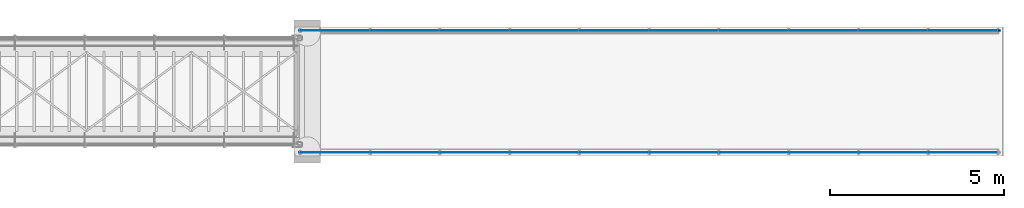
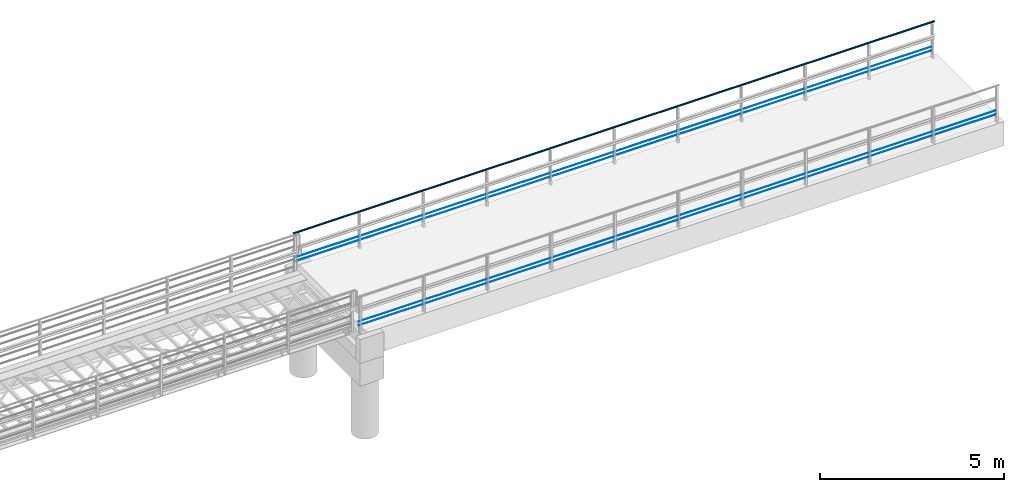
# One storey, part 16 of 31: 5 beams.
"""IFC2X3 building model written with IfcOpenShell, lengths in millimetres."""

import ifcopenshell
import ifcopenshell.guid

model = None  # the IFC model being written
_history = None  # IfcOwnerHistory: only IFC2X3 demands one
_inside = {}  # id of a spatial element -> (the spatial element, [elements in it])
_under = {}  # id of a project, library or spatial element -> (it, [spatial elements below it])
_declared = {}  # id of a project -> (the project, [libraries it declares])
_typed = {}  # id of a type object -> (the type object, [elements of that type])
_made_of = {}  # id of a material, layer set ... -> (it, [elements and type objects made of it])


def new_model(schema):
    """Start an empty IFC model of exactly this schema.

    Asked for "IFC4X3", IfcOpenShell would pick the latest addendum, in which some entities
    have other attributes; the version numbers below select the first issue.
    IFC2X3 requires an IfcOwnerHistory on every rooted entity: one is made here for all.
    """
    global model, _history
    if schema == "IFC4X3":
        model = ifcopenshell.file(schema_version=(4, 3, 0, 0))
    else:
        model = ifcopenshell.file(schema=schema)
    _inside.clear()
    _under.clear()
    _declared.clear()
    _typed.clear()
    _made_of.clear()
    _history = None
    if model.schema == "IFC2X3":
        org = make("IfcOrganization", Name="unknown")
        user = make(
            "IfcPersonAndOrganization",
            ThePerson=make("IfcPerson", FamilyName="unknown"),
            TheOrganization=org,
        )
        app = make(
            "IfcApplication",
            ApplicationDeveloper=org,
            Version="unknown",
            ApplicationFullName="unknown",
            ApplicationIdentifier="unknown",
        )
        _history = make(
            "IfcOwnerHistory",
            OwningUser=user,
            OwningApplication=app,
            ChangeAction="ADDED",
            CreationDate=0,
        )
    return model


def make(cls, **values):
    """One entity of the class cls with the attributes given. An attribute that is None is left unset."""
    return model.create_entity(
        cls, **{name: value for name, value in values.items() if value is not None}
    )


def rooted(cls, **values):
    """An entity with a GlobalId (a new one), such as an element, a storey or a relation."""
    return make(cls, GlobalId=ifcopenshell.guid.new(), OwnerHistory=_history, **values)


def si_unit(unit_type, name, prefix=None):
    """IfcSIUnit, for example si_unit("LENGTHUNIT", "METRE", prefix="MILLI")."""
    return make("IfcSIUnit", UnitType=unit_type, Prefix=prefix, Name=name)


def assignment(units):
    """IfcUnitAssignment: the units of a project."""
    return None if units is None else make("IfcUnitAssignment", Units=units)


def point(xyz):
    """IfcCartesianPoint."""
    return None if xyz is None else make("IfcCartesianPoint", Coordinates=xyz)


def direction(xyz):
    """IfcDirection."""
    return None if xyz is None else make("IfcDirection", DirectionRatios=xyz)


def frame(location, z_axis=None, x_axis=None):
    """IfcAxis2Placement3D, a coordinate frame: its origin and axes. An axis left out is left unset."""
    return make(
        "IfcAxis2Placement3D",
        Location=point(location),
        Axis=direction(z_axis),
        RefDirection=direction(x_axis),
    )


def origin_with_axes():
    """The frame at (0, 0, 0) with the z axis (0, 0, 1) and the x axis (1, 0, 0) written out."""
    return frame((0.0, 0.0, 0.0), z_axis=(0.0, 0.0, 1.0), x_axis=(1.0, 0.0, 0.0))


def place(relative_to, where):
    """IfcLocalPlacement: puts the frame where relative to a parent placement (None: the world)."""
    return make(
        "IfcLocalPlacement", PlacementRelTo=relative_to, RelativePlacement=where
    )


def context(
    kind, dimensions, precision=None, world=None, true_north=None, identifier=None
):
    """IfcGeometricRepresentationContext, for example the 3D "Model" context."""
    return make(
        "IfcGeometricRepresentationContext",
        ContextIdentifier=identifier,
        ContextType=kind,
        CoordinateSpaceDimension=dimensions,
        Precision=precision,
        WorldCoordinateSystem=world,
        TrueNorth=true_north,
    )


def subcontext(parent, identifier, kind, view, scale=None):
    """IfcGeometricRepresentationSubContext, for example "Body" below "Model"."""
    return make(
        "IfcGeometricRepresentationSubContext",
        ContextIdentifier=identifier,
        ContextType=kind,
        ParentContext=parent,
        TargetScale=scale,
        TargetView=view,
    )


def project(units=None, contexts=None):
    """IfcProject with its units and contexts."""
    return rooted(
        "IfcProject",
        Name="project",
        RepresentationContexts=contexts,
        UnitsInContext=assignment(units),
    )


def spatial(cls, under=None, at=None, **own):
    """A site, building, storey or space (cls), placed at a placement, below another one or the project."""
    s = rooted(cls, ObjectPlacement=at, **own)
    if under is not None:
        _under.setdefault(under.id(), (under, []))[1].append(s)
    return s


def faces_of(points, faces, orient=None, outer=None):
    """IfcFace entities. A face is a list of loops; a loop is a list of indices into points, from 0.

    orient and outer hold one flag for each loop. By default every Orientation is true, the
    first loop of a face is its IfcFaceOuterBound and the others are IfcFaceBound.
    """
    made = []
    for i, loops in enumerate(faces):
        bounds = []
        for j, loop in enumerate(loops):
            is_outer = j == 0 if outer is None else outer[i][j]
            bounds.append(
                make(
                    "IfcFaceOuterBound" if is_outer else "IfcFaceBound",
                    Bound=make("IfcPolyLoop", Polygon=[points[k] for k in loop]),
                    Orientation=True if orient is None else orient[i][j],
                )
            )
        made.append(make("IfcFace", Bounds=bounds))
    return made


def faceted_brep(points, faces, orient=None, outer=None, voids=None):
    """IfcFacetedBrep: a solid bounded by flat faces; with voids (closed shells), ...WithVoids."""
    shared = [point(p) for p in points]
    hull = make("IfcClosedShell", CfsFaces=faces_of(shared, faces, orient, outer))
    if voids is None:
        return make("IfcFacetedBrep", Outer=hull)
    return make(
        "IfcFacetedBrepWithVoids",
        Outer=hull,
        Voids=[
            make(cls, CfsFaces=faces_of(shared, fs, o, b)) for cls, fs, o, b in voids
        ],
    )


def shape(context_of_items, identifier, shape_type, items):
    """IfcShapeRepresentation: the items that make up one representation, for example the "Body"."""
    return make(
        "IfcShapeRepresentation",
        ContextOfItems=context_of_items,
        RepresentationIdentifier=identifier,
        RepresentationType=shape_type,
        Items=items,
    )


def material(Name=None, Category=None):
    """IfcMaterial."""
    return make("IfcMaterial", Name=Name, Category=Category)


def made_of(thing, what):
    """Note that an element or type object is made of a material, layer set ...; save() writes the relation."""
    if what is not None:
        _made_of.setdefault(what.id(), (what, []))[1].append(thing)
    return thing


def type_object(cls, material=None, **own):
    """A type object (cls), such as IfcWallType, which elements share."""
    return made_of(rooted(cls, **own), material)


def element(
    cls,
    number,
    at=None,
    inside=None,
    cuts=None,
    type_object=None,
    material=None,
    context=None,
    identifier="Body",
    shape_type=None,
    held_by="IfcProductDefinitionShape",
    body=None,
    shapes=None,
    **own,
):
    """One element of the class cls, such as IfcWall. Its Tag is "e" and its number.

    at: its placement. inside: the storey or other place that contains it. cuts: it is an
    opening in that element (IfcRelVoidsElement). A single representation is given by context,
    identifier, shape_type and body (its items); several are given by shapes. held_by: the class
    of the entity that holds the representations. save() writes the other relations.
    """
    e = rooted(cls, Tag="e%d" % number, ObjectPlacement=at, **own)
    if body is not None:
        shapes = [shape(context, identifier, shape_type, body)]
    if shapes is not None:
        e.Representation = make(held_by, Representations=shapes)
    if inside is not None:
        _inside.setdefault(inside.id(), (inside, []))[1].append(e)
    if cuts is not None:
        rooted(
            "IfcRelVoidsElement", RelatingBuildingElement=cuts, RelatedOpeningElement=e
        )
    if type_object is not None:
        _typed.setdefault(type_object.id(), (type_object, []))[1].append(e)
    return made_of(e, material)


def aggregate(whole, parts):
    """IfcRelAggregates: a whole, such as a stair, and the parts it consists of."""
    return rooted("IfcRelAggregates", RelatingObject=whole, RelatedObjects=parts)


def save(model, path):
    """Write the relations noted so far, then the file.

    IfcRelAggregates (storeys below a building ...), IfcRelContainedInSpatialStructure (elements
    in a storey), IfcRelDefinesByType, IfcRelAssociatesMaterial and IfcRelDeclares: one each for
    every whole, place, type object, material and project.
    """
    for whole, parts in _under.values():
        aggregate(whole, parts)
    for where, things in _inside.values():
        rooted(
            "IfcRelContainedInSpatialStructure",
            RelatedElements=things,
            RelatingStructure=where,
        )
    for kind, things in _typed.values():
        rooted("IfcRelDefinesByType", RelatedObjects=things, RelatingType=kind)
    for what, things in _made_of.values():
        rooted("IfcRelAssociatesMaterial", RelatedObjects=things, RelatingMaterial=what)
    for by, libraries in _declared.values():
        rooted("IfcRelDeclares", RelatingContext=by, RelatedDefinitions=libraries)
    model.write(path)


model = new_model("IFC2X3")

# Units and contexts
model_context = context("Model", 3, precision=1e-05, world=origin_with_axes())
body_context = subcontext(model_context, "Body", "Model", "MODEL_VIEW")
ifc_project = project(units=[si_unit("LENGTHUNIT", "METRE", prefix="MILLI"), si_unit("AREAUNIT", "SQUARE_METRE"), si_unit("VOLUMEUNIT", "CUBIC_METRE"), si_unit("MASSUNIT", "GRAM", prefix="KILO"), si_unit("TIMEUNIT", "SECOND"), si_unit("PLANEANGLEUNIT", "RADIAN"), si_unit("SOLIDANGLEUNIT", "STERADIAN"), si_unit("THERMODYNAMICTEMPERATUREUNIT", "DEGREE_CELSIUS"), si_unit("LUMINOUSINTENSITYUNIT", "LUMEN")], contexts=[model_context])

# Site, building, storey
site_placement = place(None, origin_with_axes())
site = spatial("IfcSite", under=ifc_project, at=site_placement, Name="Undefined", CompositionType="ELEMENT")
building_placement = place(site_placement, origin_with_axes())
building = spatial("IfcBuilding", under=site, at=building_placement, Name="Undefined", CompositionType="ELEMENT")
storey_placement = place(building_placement, origin_with_axes())
storey = spatial("IfcBuildingStorey", under=building, at=storey_placement, Name="Undefined", CompositionType="ELEMENT", Elevation=0.0)

# Beams
ifc_material = material(Name="STEEL/S355J2+N")
beam_type_1 = type_object("IfcBeamType", Name="CFCHS60.3*3.2", PredefinedType="NOTDEFINED")
beam_placement = place(storey_placement, frame((39650.0, 2900.0, 1069.85), z_axis=(0.0, 1.0, 0.0), x_axis=(-1.0, 0.0, 0.0)))
element("IfcBeam", 1, at=beam_placement, inside=storey, type_object=beam_type_1, material=ifc_material, Name="BB-REKKVERK", context=body_context, shape_type="Brep", body=[
    faceted_brep([(0.0, -26.95, 0.0), (0.0, -24.898553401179, 10.3133185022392), (20150.0, -24.8985534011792, 10.3133185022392), (20150.0, -26.95, 0.0), (0.0, -19.0565277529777, 19.0565277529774), (20150.0, -19.0565277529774, 19.0565277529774), (0.0, -10.3133185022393, 24.8985534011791), (20150.0, -10.3133185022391, 24.8985534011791), (0.0, 0.0, 26.95), (20150.0, 0.0, 26.95), (0.0, 10.3133185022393, 24.8985534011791), (20150.0, 10.3133185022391, 24.8985534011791), (0.0, 19.0565277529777, 19.0565277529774), (20150.0, 19.0565277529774, 19.0565277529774), (0.0, 24.898553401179, 10.3133185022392), (20150.0, 24.8985534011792, 10.3133185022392), (0.0, 26.95, 0.0), (20150.0, 26.95, 0.0), (0.0, 24.898553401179, -10.3133185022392), (20150.0, 24.8985534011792, -10.3133185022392), (0.0, 19.0565277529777, -19.0565277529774), (20150.0, 19.0565277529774, -19.0565277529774), (0.0, 10.3133185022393, -24.8985534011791), (20150.0, 10.3133185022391, -24.8985534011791), (0.0, 0.0, -26.95), (20150.0, 0.0, -26.95), (0.0, -10.3133185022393, -24.8985534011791), (20150.0, -10.3133185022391, -24.8985534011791), (0.0, -19.0565277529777, -19.0565277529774), (20150.0, -19.0565277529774, -19.0565277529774), (0.0, -24.898553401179, -10.3133185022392), (20150.0, -24.8985534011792, -10.3133185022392), (0.0, -30.15, 0.0), (0.0, -27.8549679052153, -11.5379054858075), (20150.0, -27.8549679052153, -11.5379054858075), (20150.0, -30.1500000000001, 0.0), (0.0, -21.3192694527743, -21.3192694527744), (20150.0, -21.3192694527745, -21.3192694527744), (0.0, -11.5379054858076, -27.8549679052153), (20150.0, -11.5379054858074, -27.8549679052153), (0.0, 0.0, -30.15), (20150.0, 0.0, -30.15), (0.0, 11.5379054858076, -27.8549679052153), (20150.0, 11.5379054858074, -27.8549679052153), (0.0, 21.3192694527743, -21.3192694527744), (20150.0, 21.3192694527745, -21.3192694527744), (0.0, 27.8549679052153, -11.5379054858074), (20150.0, 27.8549679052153, -11.5379054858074), (0.0, 30.15, 0.0), (20150.0, 30.1500000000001, 0.0), (0.0, 27.8549679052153, 11.5379054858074), (20150.0, 27.8549679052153, 11.5379054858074), (0.0, 21.3192694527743, 21.3192694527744), (20150.0, 21.3192694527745, 21.3192694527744), (0.0, 11.5379054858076, 27.8549679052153), (20150.0, 11.5379054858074, 27.8549679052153), (0.0, 0.0, 30.15), (20150.0, 0.0, 30.15), (0.0, -11.5379054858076, 27.8549679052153), (20150.0, -11.5379054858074, 27.8549679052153), (0.0, -21.3192694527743, 21.3192694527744), (20150.0, -21.3192694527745, 21.3192694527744), (0.0, -27.8549679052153, 11.5379054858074), (20150.0, -27.8549679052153, 11.5379054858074)], [[[0, 1, 2, 3]], [[1, 4, 5, 2]], [[4, 6, 7, 5]], [[6, 8, 9, 7]], [[8, 10, 11, 9]], [[10, 12, 13, 11]], [[12, 14, 15, 13]], [[14, 16, 17, 15]], [[16, 18, 19, 17]], [[18, 20, 21, 19]], [[20, 22, 23, 21]], [[22, 24, 25, 23]], [[24, 26, 27, 25]], [[26, 28, 29, 27]], [[28, 30, 31, 29]], [[30, 0, 3, 31]], [[32, 33, 34, 35]], [[33, 36, 37, 34]], [[36, 38, 39, 37]], [[38, 40, 41, 39]], [[40, 42, 43, 41]], [[42, 44, 45, 43]], [[44, 46, 47, 45]], [[46, 48, 49, 47]], [[48, 50, 51, 49]], [[50, 52, 53, 51]], [[52, 54, 55, 53]], [[54, 56, 57, 55]], [[56, 58, 59, 57]], [[58, 60, 61, 59]], [[60, 62, 63, 61]], [[62, 32, 35, 63]], [[37, 39, 41, 43, 45, 47, 49, 51, 53, 55, 57, 59, 61, 63, 35, 34], [5, 7, 9, 11, 13, 15, 17, 19, 21, 23, 25, 27, 29, 31, 3, 2]], [[62, 60, 58, 56, 54, 52, 50, 48, 46, 44, 42, 40, 38, 36, 33, 32], [30, 28, 26, 24, 22, 20, 18, 16, 14, 12, 10, 8, 6, 4, 1, 0]]]),
])
beam_type_2 = type_object("IfcBeamType", Name="D10", PredefinedType="NOTDEFINED")
for number, where, z_axis, x_axis, name in (
    (2, (39540.0, -600.0, 255.0), (0.0, -1.0, 0.0), (-1.0, 0.0, 0.0), "BB-REKKVERK"),
    (3, (39540.0, -600.0, 125.0), (0.0, -1.0, 0.0), (-1.0, 0.0, 0.0), "BB-REKKVERK"),
    (4, (39540.0, 2900.0, 255.0), (0.0, 1.0, 0.0), (-1.0, 0.0, 0.0), "BB-REKKVERK"),
    (5, (39540.0, 2900.0, 125.0), (0.0, 1.0, 0.0), (-1.0, 0.0, 0.0), "BB-REKKVERK"),
):
    element("IfcBeam", number, at=place(storey_placement, frame(where, z_axis=z_axis, x_axis=x_axis)), inside=storey, type_object=beam_type_2, material=ifc_material, Name=name, context=body_context, shape_type="Brep", body=[
        faceted_brep([(0.0, -5.0, 0.0), (0.0, -3.53553390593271, -3.53553390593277), (20000.0, -3.53553390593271, -3.53553390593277), (20000.0, -5.0, 0.0), (0.0, 0.0, -5.0), (20000.0, 0.0, -5.0), (0.0, 3.53553390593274, -3.53553390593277), (20000.0, 3.53553390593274, -3.53553390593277), (0.0, 5.0, 0.0), (20000.0, 5.0, 0.0), (0.0, 3.53553390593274, 3.53553390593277), (20000.0, 3.53553390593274, 3.53553390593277), (0.0, 0.0, 5.0), (20000.0, 0.0, 5.0), (0.0, -3.53553390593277, 3.53553390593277), (20000.0, -3.53553390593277, 3.53553390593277)], [[[0, 1, 2, 3]], [[1, 4, 5, 2]], [[4, 6, 7, 5]], [[6, 8, 9, 7]], [[8, 10, 11, 9]], [[10, 12, 13, 11]], [[12, 14, 15, 13]], [[14, 0, 3, 15]], [[5, 7, 9, 11, 13, 15, 3, 2]], [[14, 12, 10, 8, 6, 4, 1, 0]]]),
    ])

save(model, "model.ifc")
